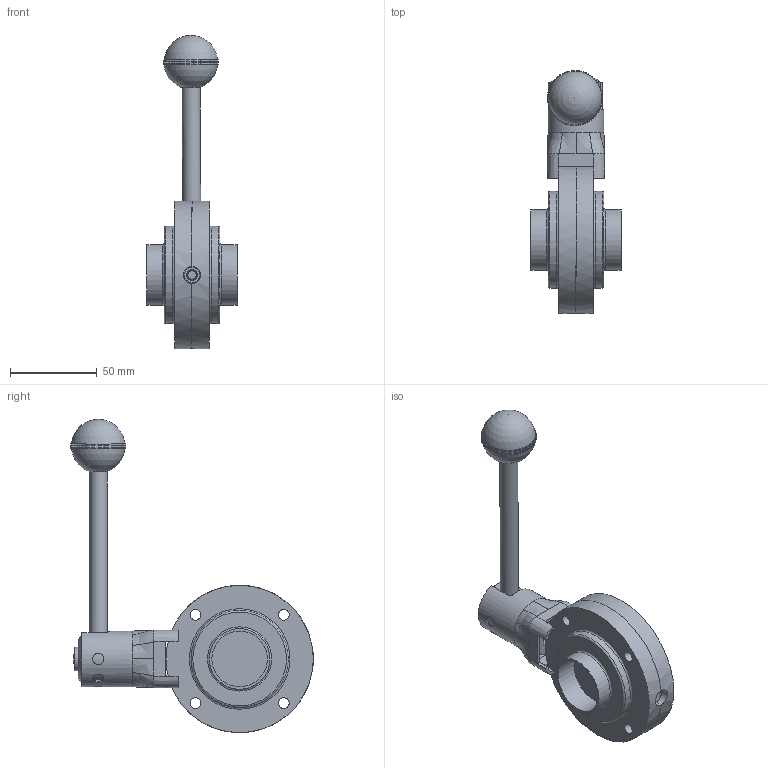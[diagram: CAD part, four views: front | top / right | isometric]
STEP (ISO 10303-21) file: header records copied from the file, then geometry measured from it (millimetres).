
FILE_DESCRIPTION(/* description */ ('VVF VALV.FARF.DN32 (35X1.5) SS EPDM 316 LEVA INOX 3POS.'),/* implementation_level */ '2;1');
FILE_NAME(/* name */ 'C:\_DED_PWS\ZIGN-L\DB\B\EBA\BEBACG032BEBV-00^SAGOMA.step',/* time_stamp */ '2022-12-07T11:19:25+01:00',/* author */ (''),/* organization */ (''),/* preprocessor_version */ 'ST-DEVELOPER v18.1',/* originating_system */ 'Autodesk Inventor 2022',/* authorisation */ '');
FILE_SCHEMA (('CONFIG_CONTROL_DESIGN'));
Length unit declared in the file: millimetre
Products named in the file (3): BEBACG032BEBV; TNU430065AAA; TWD006032BBA
Assembly tree (3 placements, depth 2):
  BEBACG032BEBV
    TNU430065AAA
    TWD006032BBA  x2
Bounding box: 52 x 139.94 x 180.68 mm (x, y, z)
Volume: 182474.3 mm3; surface area: 62714.3 mm2
Topology: 5 solids, 6 shells, 543 faces, 1321 edges, 871 vertices
Faces by surface type: plane 353, torus 85, cylinder 56, bspline 38, cone 7, sphere 4
Full cylindrical faces by diameter (mm): 6 x2, 6.2 x8, 6.5 x3, 9 x3, 9.3 x1, 10 x1, 10.4 x1, 10.5 x1, 11 x1, 11.1 x1, 11.4 x2, 13.4 x1, 15 x1, 15.2 x1, 27.8 x1, 28.4 x1, 32 x2, 32.2 x1, 35 x2, 56 x2, 85 x2
Entity records: 26313 total; most frequent: CARTESIAN_POINT 13511, DIRECTION 2564, ORIENTED_EDGE 2544, EDGE_CURVE 1272, AXIS2_PLACEMENT_3D 1067, VERTEX_POINT 840, EDGE_LOOP 624, CIRCLE 576
